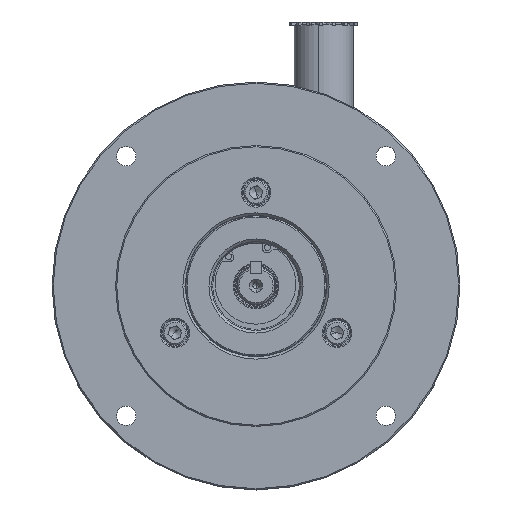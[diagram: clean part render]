
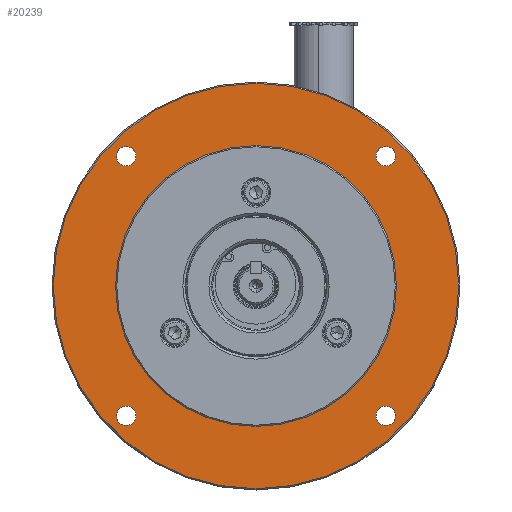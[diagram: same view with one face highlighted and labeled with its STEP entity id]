
A CAD part, top view. The second image highlights one B-rep face of the part: STEP entity #20239.
In plain terms, the highlighted planar face has unit normal (0, 0, 1).
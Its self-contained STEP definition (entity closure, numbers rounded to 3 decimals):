
#292 = EDGE_LOOP ( 'NONE', ( #10627, #14946 ) ) ;
#504 = CARTESIAN_POINT ( 'NONE',  ( 57.15, 4., 42.325 ) ) ;
#702 = VERTEX_POINT ( 'NONE', #47970 ) ;
#745 = CIRCLE ( 'NONE', #7439, 3.969 ) ;
#764 = ORIENTED_EDGE ( 'NONE', *, *, #28807, .F. ) ;
#1038 = EDGE_LOOP ( 'NONE', ( #41240, #26362 ) ) ;
#1494 = CARTESIAN_POINT ( 'NONE',  ( -82.5, 4., 42.325 ) ) ;
#1699 = EDGE_CURVE ( 'NONE', #9746, #22093, #4274, .T. ) ;
#2040 = CARTESIAN_POINT ( 'NONE',  ( -48.852, 56.821, 42.325 ) ) ;
#2162 = DIRECTION ( 'NONE',  ( -1., 0., 0. ) ) ;
#2190 = FACE_BOUND ( 'NONE', #16339, .T. ) ;
#2329 = EDGE_CURVE ( 'NONE', #36925, #37158, #16115, .T. ) ;
#2828 = CARTESIAN_POINT ( 'NONE',  ( -52.821, -48.821, 42.325 ) ) ;
#3050 = ORIENTED_EDGE ( 'NONE', *, *, #6532, .F. ) ;
#3783 = VERTEX_POINT ( 'NONE', #1494 ) ;
#3849 = CARTESIAN_POINT ( 'NONE',  ( 52.821, -48.821, 42.325 ) ) ;
#3966 = ORIENTED_EDGE ( 'NONE', *, *, #2329, .F. ) ;
#4274 = CIRCLE ( 'NONE', #35174, 3.969 ) ;
#5691 = CARTESIAN_POINT ( 'NONE',  ( -48.852, -48.821, 42.325 ) ) ;
#6532 = EDGE_CURVE ( 'NONE', #37158, #36925, #37736, .T. ) ;
#6802 = CARTESIAN_POINT ( 'NONE',  ( 0., 4., 42.325 ) ) ;
#6990 = CIRCLE ( 'NONE', #15495, 57.15 ) ;
#7266 = CARTESIAN_POINT ( 'NONE',  ( -56.79, 56.821, 42.325 ) ) ;
#7298 = ORIENTED_EDGE ( 'NONE', *, *, #19560, .F. ) ;
#7439 = AXIS2_PLACEMENT_3D ( 'NONE', #43814, #21231, #2162 ) ;
#8200 = FACE_BOUND ( 'NONE', #1038, .T. ) ;
#8926 = DIRECTION ( 'NONE',  ( 0., 0., 1. ) ) ;
#9183 = AXIS2_PLACEMENT_3D ( 'NONE', #42101, #15699, #34981 ) ;
#9375 = CIRCLE ( 'NONE', #32680, 3.969 ) ;
#9387 = FACE_BOUND ( 'NONE', #292, .T. ) ;
#9746 = VERTEX_POINT ( 'NONE', #7266 ) ;
#9835 = CARTESIAN_POINT ( 'NONE',  ( 0., -53.15, 42.325 ) ) ;
#10627 = ORIENTED_EDGE ( 'NONE', *, *, #24639, .F. ) ;
#11090 = EDGE_CURVE ( 'NONE', #22093, #9746, #15503, .T. ) ;
#12121 = DIRECTION ( 'NONE',  ( 1., 0., 0. ) ) ;
#13280 = ORIENTED_EDGE ( 'NONE', *, *, #45958, .T. ) ;
#13780 = EDGE_LOOP ( 'NONE', ( #48052, #13280 ) ) ;
#13977 = CARTESIAN_POINT ( 'NONE',  ( 56.79, -48.821, 42.325 ) ) ;
#14330 = VERTEX_POINT ( 'NONE', #31186 ) ;
#14757 = DIRECTION ( 'NONE',  ( 0., 0., 1. ) ) ;
#14946 = ORIENTED_EDGE ( 'NONE', *, *, #46243, .F. ) ;
#15003 = AXIS2_PLACEMENT_3D ( 'NONE', #31367, #27805, #12121 ) ;
#15495 = AXIS2_PLACEMENT_3D ( 'NONE', #32013, #36175, #47377 ) ;
#15503 = CIRCLE ( 'NONE', #30911, 3.969 ) ;
#15699 = DIRECTION ( 'NONE',  ( 0., 0., 1. ) ) ;
#16115 = CIRCLE ( 'NONE', #9183, 3.969 ) ;
#16339 = EDGE_LOOP ( 'NONE', ( #3966, #3050 ) ) ;
#16652 = CARTESIAN_POINT ( 'NONE',  ( 52.821, 56.821, 42.325 ) ) ;
#16712 = CARTESIAN_POINT ( 'NONE',  ( 52.821, -48.821, 42.325 ) ) ;
#16956 = AXIS2_PLACEMENT_3D ( 'NONE', #6802, #37422, #41229 ) ;
#16959 = DIRECTION ( 'NONE',  ( -1., 0., 0. ) ) ;
#19095 = CIRCLE ( 'NONE', #21507, 3.969 ) ;
#19557 = FACE_OUTER_BOUND ( 'NONE', #20392, .T. ) ;
#19560 = EDGE_CURVE ( 'NONE', #3783, #22363, #41547, .T. ) ;
#20239 = ADVANCED_FACE ( 'NONE', ( #9387, #2190, #40464, #8200, #47094, #19557 ), #25714, .T. ) ;
#20392 = EDGE_LOOP ( 'NONE', ( #764, #7298 ) ) ;
#21231 = DIRECTION ( 'NONE',  ( 0., 0., 1. ) ) ;
#21507 = AXIS2_PLACEMENT_3D ( 'NONE', #16652, #43581, #24517 ) ;
#21939 = DIRECTION ( 'NONE',  ( 1., 0., 0. ) ) ;
#22041 = AXIS2_PLACEMENT_3D ( 'NONE', #2828, #22552, #33667 ) ;
#22093 = VERTEX_POINT ( 'NONE', #2040 ) ;
#22363 = VERTEX_POINT ( 'NONE', #38648 ) ;
#22552 = DIRECTION ( 'NONE',  ( 0., 0., 1. ) ) ;
#22555 = CIRCLE ( 'NONE', #32633, 57.15 ) ;
#24517 = DIRECTION ( 'NONE',  ( -1., 0., 0. ) ) ;
#24639 = EDGE_CURVE ( 'NONE', #702, #32458, #9375, .T. ) ;
#25714 = PLANE ( 'NONE',  #37511 ) ;
#26362 = ORIENTED_EDGE ( 'NONE', *, *, #11090, .F. ) ;
#26537 = DIRECTION ( 'NONE',  ( 0., 0., 1. ) ) ;
#26665 = EDGE_CURVE ( 'NONE', #31626, #14330, #6990, .T. ) ;
#27805 = DIRECTION ( 'NONE',  ( 0., 0., -1. ) ) ;
#28807 = EDGE_CURVE ( 'NONE', #22363, #3783, #46967, .T. ) ;
#29092 = ORIENTED_EDGE ( 'NONE', *, *, #37145, .F. ) ;
#30196 = EDGE_CURVE ( 'NONE', #44426, #36781, #19095, .T. ) ;
#30628 = CARTESIAN_POINT ( 'NONE',  ( 48.852, 56.821, 42.325 ) ) ;
#30911 = AXIS2_PLACEMENT_3D ( 'NONE', #40929, #26537, #16959 ) ;
#31186 = CARTESIAN_POINT ( 'NONE',  ( -57.15, 4., 42.325 ) ) ;
#31367 = CARTESIAN_POINT ( 'NONE',  ( 0., 4., 42.325 ) ) ;
#31626 = VERTEX_POINT ( 'NONE', #504 ) ;
#31932 = ORIENTED_EDGE ( 'NONE', *, *, #30196, .F. ) ;
#32013 = CARTESIAN_POINT ( 'NONE',  ( 0., 4., 42.325 ) ) ;
#32458 = VERTEX_POINT ( 'NONE', #13977 ) ;
#32633 = AXIS2_PLACEMENT_3D ( 'NONE', #33705, #43842, #21939 ) ;
#32680 = AXIS2_PLACEMENT_3D ( 'NONE', #3849, #14757, #49692 ) ;
#33667 = DIRECTION ( 'NONE',  ( -1., 0., 0. ) ) ;
#33705 = CARTESIAN_POINT ( 'NONE',  ( 0., 4., 42.325 ) ) ;
#34981 = DIRECTION ( 'NONE',  ( -1., 0., 0. ) ) ;
#35174 = AXIS2_PLACEMENT_3D ( 'NONE', #35882, #8926, #36040 ) ;
#35882 = CARTESIAN_POINT ( 'NONE',  ( -52.821, 56.821, 42.325 ) ) ;
#36040 = DIRECTION ( 'NONE',  ( -1., 0., 0. ) ) ;
#36175 = DIRECTION ( 'NONE',  ( 0., 0., -1. ) ) ;
#36781 = VERTEX_POINT ( 'NONE', #41487 ) ;
#36925 = VERTEX_POINT ( 'NONE', #46689 ) ;
#37145 = EDGE_CURVE ( 'NONE', #36781, #44426, #745, .T. ) ;
#37158 = VERTEX_POINT ( 'NONE', #5691 ) ;
#37422 = DIRECTION ( 'NONE',  ( 0., 0., -1. ) ) ;
#37511 = AXIS2_PLACEMENT_3D ( 'NONE', #9835, #48147, #48480 ) ;
#37736 = CIRCLE ( 'NONE', #22041, 3.969 ) ;
#38404 = AXIS2_PLACEMENT_3D ( 'NONE', #16712, #47199, #43486 ) ;
#38648 = CARTESIAN_POINT ( 'NONE',  ( 82.5, 4., 42.325 ) ) ;
#40464 = FACE_BOUND ( 'NONE', #41725, .T. ) ;
#40929 = CARTESIAN_POINT ( 'NONE',  ( -52.821, 56.821, 42.325 ) ) ;
#41229 = DIRECTION ( 'NONE',  ( 1., 0., 0. ) ) ;
#41240 = ORIENTED_EDGE ( 'NONE', *, *, #1699, .F. ) ;
#41487 = CARTESIAN_POINT ( 'NONE',  ( 56.79, 56.821, 42.325 ) ) ;
#41547 = CIRCLE ( 'NONE', #15003, 82.5 ) ;
#41725 = EDGE_LOOP ( 'NONE', ( #31932, #29092 ) ) ;
#42101 = CARTESIAN_POINT ( 'NONE',  ( -52.821, -48.821, 42.325 ) ) ;
#43486 = DIRECTION ( 'NONE',  ( -1., 0., 0. ) ) ;
#43581 = DIRECTION ( 'NONE',  ( 0., 0., 1. ) ) ;
#43814 = CARTESIAN_POINT ( 'NONE',  ( 52.821, 56.821, 42.325 ) ) ;
#43842 = DIRECTION ( 'NONE',  ( 0., 0., -1. ) ) ;
#44426 = VERTEX_POINT ( 'NONE', #30628 ) ;
#45867 = CIRCLE ( 'NONE', #38404, 3.969 ) ;
#45958 = EDGE_CURVE ( 'NONE', #14330, #31626, #22555, .T. ) ;
#46243 = EDGE_CURVE ( 'NONE', #32458, #702, #45867, .T. ) ;
#46689 = CARTESIAN_POINT ( 'NONE',  ( -56.79, -48.821, 42.325 ) ) ;
#46967 = CIRCLE ( 'NONE', #16956, 82.5 ) ;
#47094 = FACE_BOUND ( 'NONE', #13780, .T. ) ;
#47199 = DIRECTION ( 'NONE',  ( 0., 0., 1. ) ) ;
#47377 = DIRECTION ( 'NONE',  ( 1., 0., 0. ) ) ;
#47970 = CARTESIAN_POINT ( 'NONE',  ( 48.852, -48.821, 42.325 ) ) ;
#48052 = ORIENTED_EDGE ( 'NONE', *, *, #26665, .T. ) ;
#48147 = DIRECTION ( 'NONE',  ( 0., 0., 1. ) ) ;
#48480 = DIRECTION ( 'NONE',  ( -1., 0., 0. ) ) ;
#49692 = DIRECTION ( 'NONE',  ( -1., 0., 0. ) ) ;
